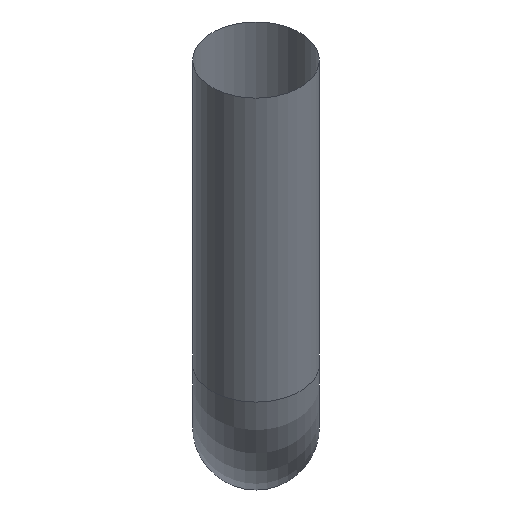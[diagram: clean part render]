
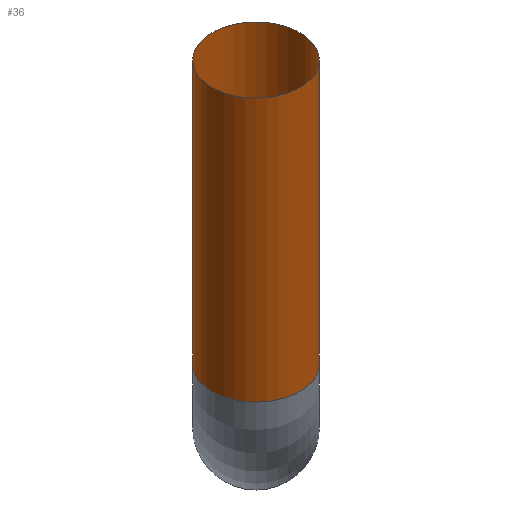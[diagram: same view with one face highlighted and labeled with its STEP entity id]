
A CAD part, top view. The second image highlights one B-rep face of the part: STEP entity #36.
In plain terms, the highlighted cylindrical face has radius 0.508 mm (diameter 1.016 mm), a full revolution.
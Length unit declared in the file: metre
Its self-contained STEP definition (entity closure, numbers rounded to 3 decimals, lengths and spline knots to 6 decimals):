
#12=CYLINDRICAL_SURFACE('',#45,0.000508);
#15=ORIENTED_EDGE('',*,*,#19,.T.);
#16=ORIENTED_EDGE('',*,*,#18,.F.);
#18=EDGE_CURVE('NONE',#21,#21,#24,.F.);
#19=EDGE_CURVE('NONE',#22,#22,#25,.F.);
#21=VERTEX_POINT('',#64);
#22=VERTEX_POINT('',#67);
#24=CIRCLE('',#44,0.000508);
#25=CIRCLE('',#46,0.000508);
#28=EDGE_LOOP('',(#15));
#29=EDGE_LOOP('',(#16));
#32=FACE_BOUND('',#28,.T.);
#33=FACE_BOUND('',#29,.T.);
#36=ADVANCED_FACE('NONE',(#32,#33),#12,.T.);
#44=AXIS2_PLACEMENT_3D('',#63,#53,#54);
#45=AXIS2_PLACEMENT_3D('',#65,#55,#56);
#46=AXIS2_PLACEMENT_3D('',#66,#57,#58);
#53=DIRECTION('',(0.,0.799,0.602));
#54=DIRECTION('',(0.,-0.602,0.799));
#55=DIRECTION('',(0.,0.799,0.602));
#56=DIRECTION('',(0.,0.602,-0.799));
#57=DIRECTION('',(0.,0.799,0.602));
#58=DIRECTION('',(0.,-0.602,0.799));
#63=CARTESIAN_POINT('',(0.024299,-0.059286,0.002763));
#64=CARTESIAN_POINT('',(0.024299,-0.059592,0.003169));
#65=CARTESIAN_POINT('',(0.024299,-0.059286,0.002763));
#66=CARTESIAN_POINT('',(0.024299,-0.056853,0.004596));
#67=CARTESIAN_POINT('',(0.024299,-0.057159,0.005002));
